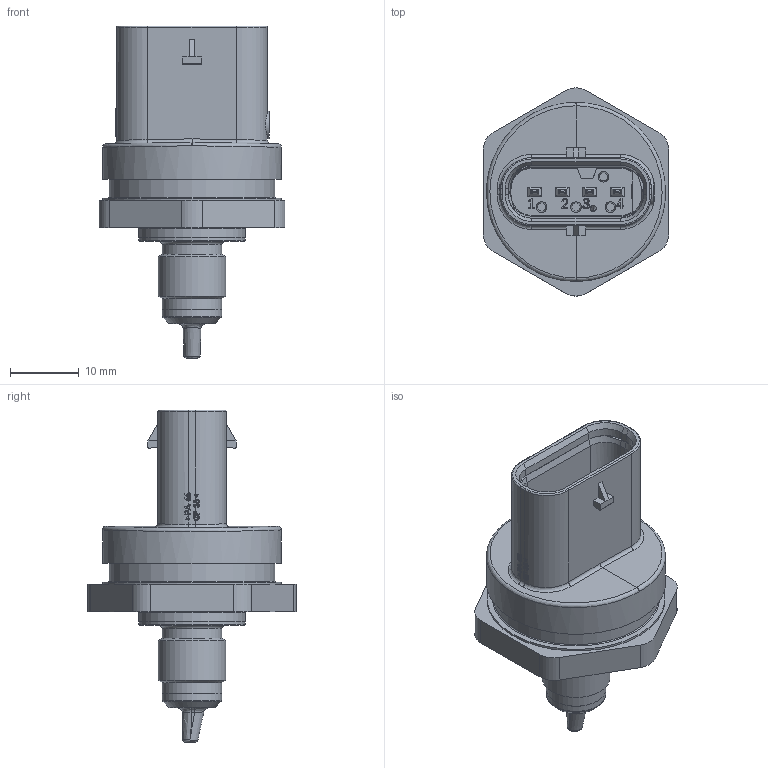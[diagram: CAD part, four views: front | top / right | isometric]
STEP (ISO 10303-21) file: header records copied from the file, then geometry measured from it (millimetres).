
FILE_DESCRIPTION(/* description */ (''),/* implementation_level */ '2;1');
FILE_NAME(/* name */ '0261.545.115.stp',/* time_stamp */ '2017-10-12T07:27:31+02:00',/* author */ (''),/* organization */ (''),/* preprocessor_version */ 'ST-DEVELOPER v16',/* originating_system */ 'SIEMENS PLM Software NX 11.0',/* authorisation */ '');
FILE_SCHEMA (('AUTOMOTIVE_DESIGN { 1 0 10303 214 3 1 1 1 }'));
Length unit declared in the file: millimetre
Products named in the file (1): 0261.545.115
Bounding box: 27 x 30.25 x 48.24 mm (x, y, z)
Volume: 6440.6 mm3; surface area: 6969.3 mm2
Topology: 1 solids, 1 shells, 926 faces, 2513 edges, 1629 vertices
Faces by surface type: plane 615, cylinder 114, bspline 71, cone 49, extrusion 49, torus 23, sphere 5
Full cylindrical faces by diameter (mm): 0.9 x1, 1 x2, 1.1 x1, 1.2 x4, 1.64 x1, 1.9 x1, 2.7 x1, 3 x1, 4 x2, 8.62 x1, 8.66 x2, 9.87 x1, 10.65 x1, 15.46 x1, 15.5 x1, 23.4 x1, 24 x1, 25.925 x1, 26 x1
Entity records: 37389 total; most frequent: CARTESIAN_POINT 9509, ORIENTED_EDGE 4882, DIRECTION 4314, EDGE_CURVE 2441, VERTEX_POINT 1607, VECTOR 1560, LINE 1511, AXIS2_PLACEMENT_3D 1377
